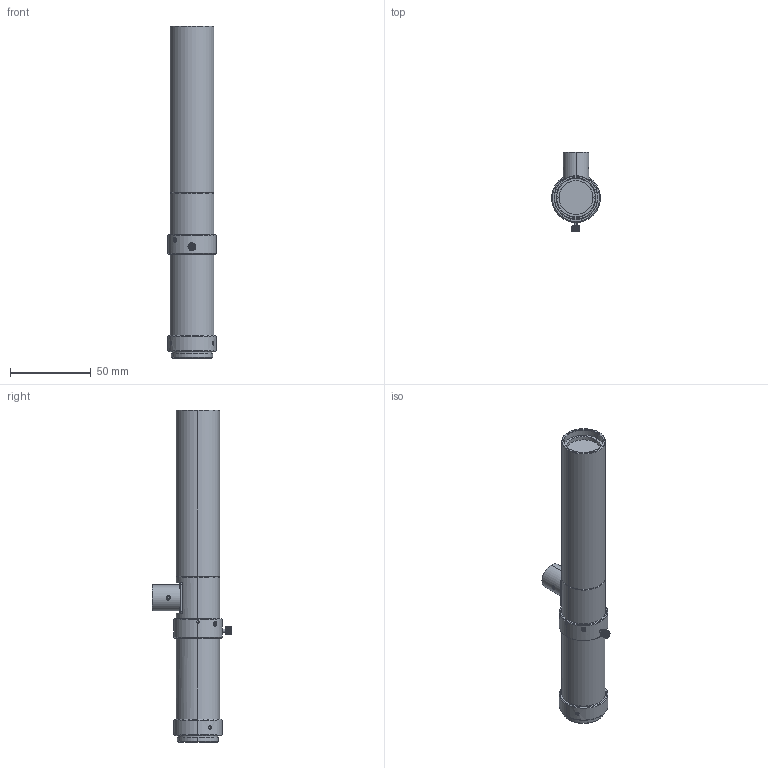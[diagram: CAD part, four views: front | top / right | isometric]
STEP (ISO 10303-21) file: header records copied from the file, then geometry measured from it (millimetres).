
FILE_DESCRIPTION (( 'STEP AP203' ), '1' );
FILE_NAME ('MML1-ST300D_A03601A0100101A-002.STEP', '2013-12-13T02:15:56', ( 'SCHOTT' ), ( 'SCHOTT' ), 'SwSTEP 2.0', 'SolidWorks 2011', '' );
FILE_SCHEMA (( 'CONFIG_CONTROL_DESIGN' ));
Length unit declared in the file: millimetre
Products named in the file (1): MML1-ST300D_A03601A0100101A-002
Bounding box: 30 x 49.3 x 204.97 mm (x, y, z)
Volume: 105311.4 mm3; surface area: 24636.5 mm2
Topology: 1 solids, 7 shells, 589 faces, 1464 edges, 903 vertices
Faces by surface type: plane 256, cone 148, cylinder 147, torus 26, sphere 12
Entity records: 19824 total; most frequent: CARTESIAN_POINT 6314, ORIENTED_EDGE 2904, DIRECTION 2725, EDGE_CURVE 1452, AXIS2_PLACEMENT_3D 1148, VERTEX_POINT 903, EDGE_LOOP 631, ADVANCED_FACE 589
